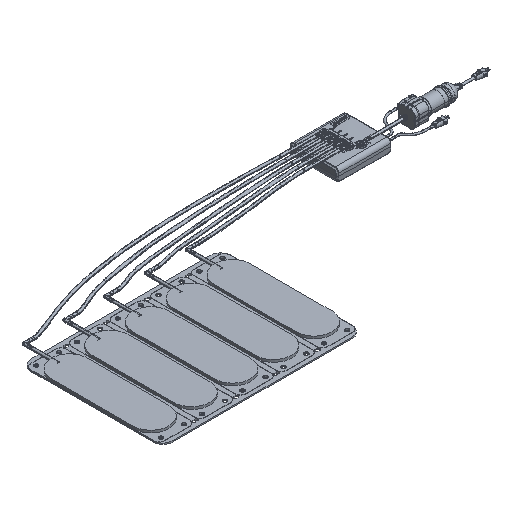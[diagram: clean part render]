
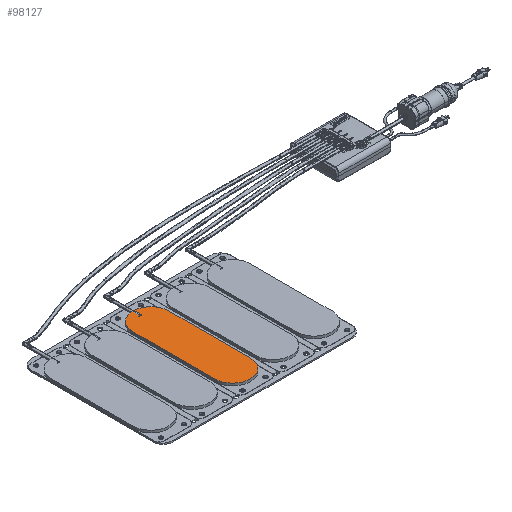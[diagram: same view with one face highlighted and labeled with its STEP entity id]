
A CAD part, isometric view. The second image highlights one B-rep face of the part: STEP entity #98127.
In plain terms, the highlighted planar face has unit normal (0, 0, 1).
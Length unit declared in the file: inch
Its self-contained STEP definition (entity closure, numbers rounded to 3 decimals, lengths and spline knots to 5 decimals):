
#1742 = VERTEX_POINT ( 'NONE', #137616 ) ;
#3466 = ORIENTED_EDGE ( 'NONE', *, *, #14825, .F. ) ;
#5806 = DIRECTION ( 'NONE',  ( 1., 0., 0. ) ) ;
#7114 = AXIS2_PLACEMENT_3D ( 'NONE', #132154, #62490, #143762 ) ;
#7315 = CARTESIAN_POINT ( 'NONE',  ( -19.48819, -5.40551, 1.1748 ) ) ;
#14574 = CARTESIAN_POINT ( 'NONE',  ( -19.48819, -12.09843, 1.1748 ) ) ;
#14825 = EDGE_CURVE ( 'NONE', #31179, #1742, #87103, .T. ) ;
#18589 = LINE ( 'NONE', #93833, #76688 ) ;
#22810 = AXIS2_PLACEMENT_3D ( 'NONE', #110598, #40983, #122245 ) ;
#27595 = EDGE_CURVE ( 'NONE', #122289, #62425, #139726, .T. ) ;
#27807 = ORIENTED_EDGE ( 'NONE', *, *, #27595, .F. ) ;
#28864 = PLANE ( 'NONE',  #22810 ) ;
#31179 = VERTEX_POINT ( 'NONE', #14574 ) ;
#35585 = EDGE_CURVE ( 'NONE', #1742, #122289, #43856, .T. ) ;
#40184 = VECTOR ( 'NONE', #64429, 39.37008 ) ;
#40983 = DIRECTION ( 'NONE',  ( 0., 0., -1. ) ) ;
#42651 = ORIENTED_EDGE ( 'NONE', *, *, #35585, .F. ) ;
#43856 = LINE ( 'NONE', #111209, #40184 ) ;
#47490 = EDGE_CURVE ( 'NONE', #31179, #62425, #18589, .T. ) ;
#62425 = VERTEX_POINT ( 'NONE', #7315 ) ;
#62490 = DIRECTION ( 'NONE',  ( 0., 0., -1. ) ) ;
#64429 = DIRECTION ( 'NONE',  ( 0., 1., 0. ) ) ;
#75354 = DIRECTION ( 'NONE',  ( 0., 0., -1. ) ) ;
#76688 = VECTOR ( 'NONE', #93323, 39.37008 ) ;
#82979 = EDGE_LOOP ( 'NONE', ( #27807, #42651, #3466, #129921 ) ) ;
#87103 = CIRCLE ( 'NONE', #130616, 1.47638 ) ;
#91125 = FACE_OUTER_BOUND ( 'NONE', #82979, .T. ) ;
#93323 = DIRECTION ( 'NONE',  ( 0., 1., 0. ) ) ;
#93833 = CARTESIAN_POINT ( 'NONE',  ( -19.48819, -4.51969, 1.1748 ) ) ;
#98127 = ADVANCED_FACE ( 'NONE', ( #91125 ), #28864, .F. ) ;
#110598 = CARTESIAN_POINT ( 'NONE',  ( -20.07874, -12.98425, 1.1748 ) ) ;
#111209 = CARTESIAN_POINT ( 'NONE',  ( -22.44094, -2.94488, 1.1748 ) ) ;
#119372 = CARTESIAN_POINT ( 'NONE',  ( -22.44094, -5.40551, 1.1748 ) ) ;
#122245 = DIRECTION ( 'NONE',  ( -1., 0., 0. ) ) ;
#122289 = VERTEX_POINT ( 'NONE', #119372 ) ;
#129921 = ORIENTED_EDGE ( 'NONE', *, *, #47490, .T. ) ;
#130616 = AXIS2_PLACEMENT_3D ( 'NONE', #144866, #75354, #5806 ) ;
#132154 = CARTESIAN_POINT ( 'NONE',  ( -20.96457, -5.40551, 1.1748 ) ) ;
#137616 = CARTESIAN_POINT ( 'NONE',  ( -22.44094, -12.09843, 1.1748 ) ) ;
#139726 = CIRCLE ( 'NONE', #7114, 1.47638 ) ;
#143762 = DIRECTION ( 'NONE',  ( 1., 0., 0. ) ) ;
#144866 = CARTESIAN_POINT ( 'NONE',  ( -20.96457, -12.09843, 1.1748 ) ) ;
